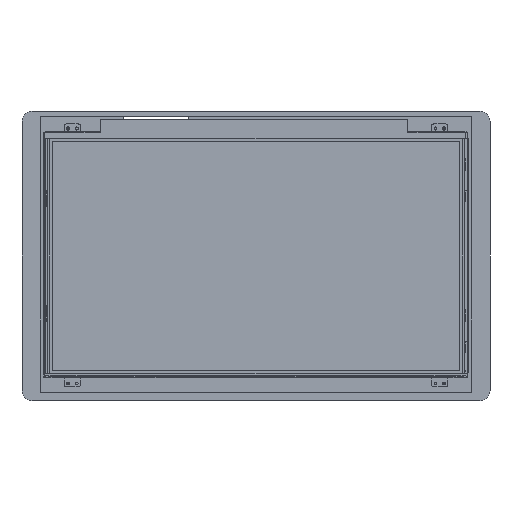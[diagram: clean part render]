
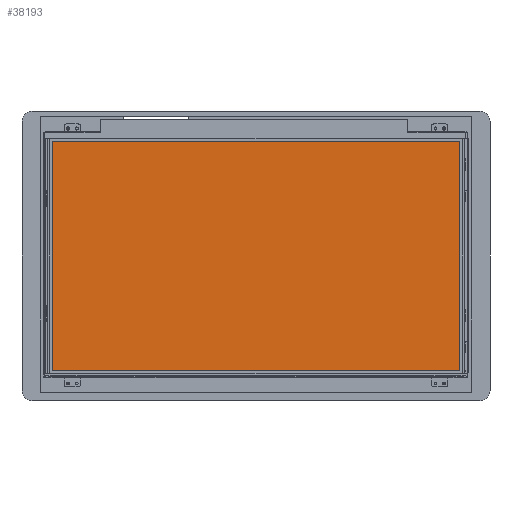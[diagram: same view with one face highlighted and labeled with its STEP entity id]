
A CAD part, front view. The second image highlights one B-rep face of the part: STEP entity #38193.
In plain terms, the highlighted planar face has unit normal (0, -1, 0).
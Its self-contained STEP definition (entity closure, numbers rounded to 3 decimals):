
#2029=DIRECTION('',(0.,0.,1.));
#2030=VECTOR('',#2029,214.812);
#2031=CARTESIAN_POINT('',(195.464,-3.555,-113.996));
#2032=LINE('',#2031,#2030);
#2033=DIRECTION('',(1.,0.,0.));
#2034=VECTOR('',#2033,381.888);
#2035=CARTESIAN_POINT('',(-186.424,-3.555,-113.996));
#2036=LINE('',#2035,#2034);
#2037=DIRECTION('',(0.,0.,-1.));
#2038=VECTOR('',#2037,214.812);
#2039=CARTESIAN_POINT('',(-186.424,-3.555,100.816));
#2040=LINE('',#2039,#2038);
#2041=DIRECTION('',(-1.,0.,0.));
#2042=VECTOR('',#2041,381.888);
#2043=CARTESIAN_POINT('',(195.464,-3.555,100.816));
#2044=LINE('',#2043,#2042);
#32747=CARTESIAN_POINT('',(195.464,-3.555,-113.996));
#32748=CARTESIAN_POINT('',(195.464,-3.555,100.816));
#32749=VERTEX_POINT('',#32747);
#32750=VERTEX_POINT('',#32748);
#32751=CARTESIAN_POINT('',(-186.424,-3.555,100.816));
#32752=VERTEX_POINT('',#32751);
#32753=CARTESIAN_POINT('',(-186.424,-3.555,-113.996));
#32754=VERTEX_POINT('',#32753);
#38182=CARTESIAN_POINT('',(199.92,-3.555,108.604));
#38183=DIRECTION('',(0.,-1.,0.));
#38184=DIRECTION('',(-1.,0.,0.));
#38185=AXIS2_PLACEMENT_3D('',#38182,#38183,#38184);
#38186=PLANE('',#38185);
#38187=ORIENTED_EDGE('',*,*,#38134,.F.);
#38188=ORIENTED_EDGE('',*,*,#38149,.F.);
#38189=ORIENTED_EDGE('',*,*,#38163,.F.);
#38190=ORIENTED_EDGE('',*,*,#38176,.F.);
#38191=EDGE_LOOP('',(#38187,#38188,#38189,#38190));
#38192=FACE_OUTER_BOUND('',#38191,.F.);
#38134=EDGE_CURVE('',#32749,#32750,#2032,.T.);
#38149=EDGE_CURVE('',#32754,#32749,#2036,.T.);
#38163=EDGE_CURVE('',#32752,#32754,#2040,.T.);
#38176=EDGE_CURVE('',#32750,#32752,#2044,.T.);
#38193=ADVANCED_FACE('',(#38192),#38186,.T.);
